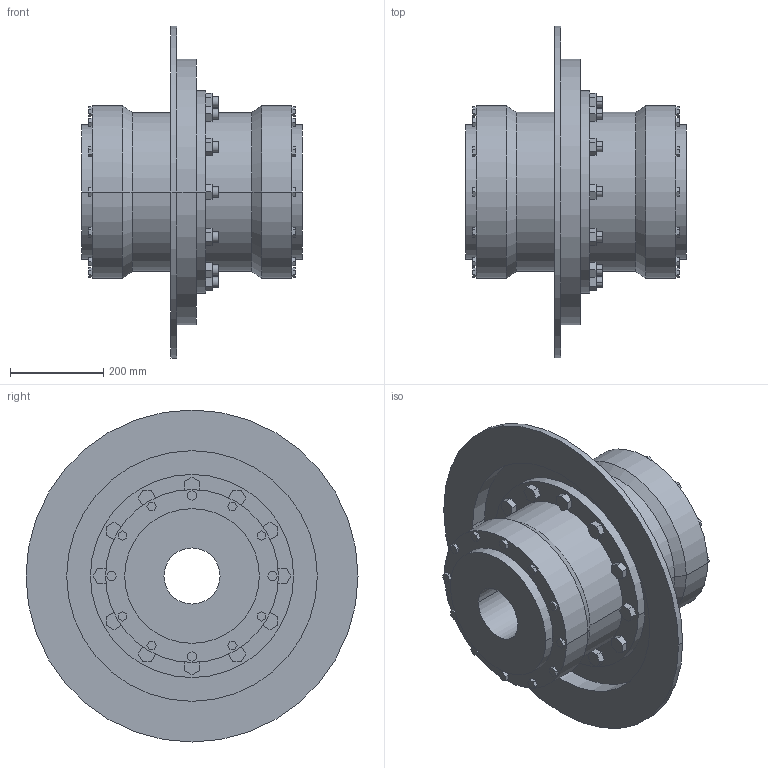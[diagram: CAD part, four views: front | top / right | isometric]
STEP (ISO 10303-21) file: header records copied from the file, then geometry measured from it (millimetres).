
FILE_DESCRIPTION((''),'2;1');
FILE_NAME('A19101800-0_ASM','2019-05-23T',('AB_Roschiwal'),('RENK AG'),'PRO/ENGINEER BY PARAMETRIC TECHNOLOGY CORPORATION, 2015440','PRO/ENGINEER BY PARAMETRIC TECHNOLOGY CORPORATION, 2015440','');
FILE_SCHEMA(('CONFIG_CONTROL_DESIGN'));
Length unit declared in the file: millimetre
Products named in the file (4): SBKT180_GEHAEUSE; SBKT180_NABE; SBKT180_BREMSSCHEIBE; A19101800-0_ASM
Assembly tree (4 placements, depth 2):
  A19101800-0_ASM
    SBKT180_GEHAEUSE
    SBKT180_NABE  x2
    SBKT180_BREMSSCHEIBE
Bounding box: 472 x 711 x 711 mm (x, y, z)
Volume: 42983550.1 mm3; surface area: 2923340.2 mm2
Topology: 4 solids, 4 shells, 470 faces, 1156 edges, 768 vertices
Faces by surface type: plane 370, cylinder 96, cone 4
Entity records: 13604 total; most frequent: CARTESIAN_POINT 2350, ORIENTED_EDGE 2264, DIRECTION 2240, EDGE_CURVE 1132, VECTOR 956, LINE 956, VERTEX_POINT 752, AXIS2_PLACEMENT_3D 642
